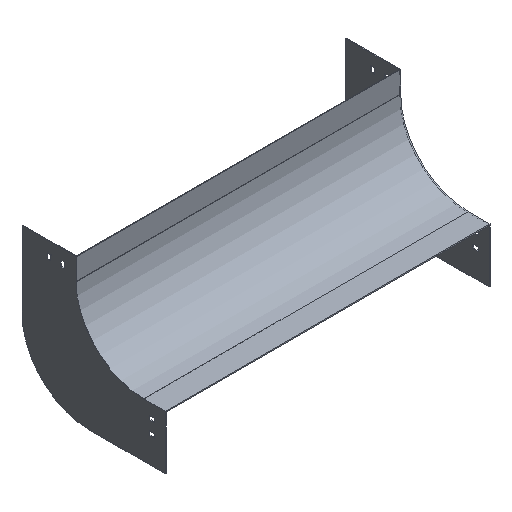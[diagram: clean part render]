
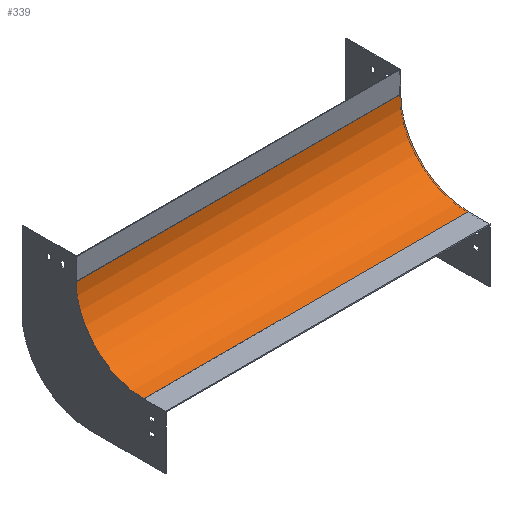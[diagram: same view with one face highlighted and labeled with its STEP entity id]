
A CAD part, isometric view. The second image highlights one B-rep face of the part: STEP entity #339.
In plain terms, the highlighted cylindrical face has radius 125 mm (diameter 250 mm), a partial arc.
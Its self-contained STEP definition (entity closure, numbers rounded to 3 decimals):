
#32 = CARTESIAN_POINT ( 'NONE',  ( 300., -125., -165. ) ) ;
#104 = DIRECTION ( 'NONE',  ( -1., 0., 0. ) ) ;
#118 = EDGE_LOOP ( 'NONE', ( #1108, #1229, #1266, #1466 ) ) ;
#149 = EDGE_CURVE ( 'NONE', #262, #860, #484, .T. ) ;
#218 = AXIS2_PLACEMENT_3D ( 'NONE', #752, #1398, #1506 ) ;
#222 = VERTEX_POINT ( 'NONE', #298 ) ;
#262 = VERTEX_POINT ( 'NONE', #583 ) ;
#298 = CARTESIAN_POINT ( 'NONE',  ( -300., -125., -165. ) ) ;
#339 = ADVANCED_FACE ( 'NONE', ( #1634 ), #1123, .F. ) ;
#428 = CIRCLE ( 'NONE', #218, 125. ) ;
#451 = LINE ( 'NONE', #32, #513 ) ;
#463 = DIRECTION ( 'NONE',  ( 0., 0., 1. ) ) ;
#484 = CIRCLE ( 'NONE', #756, 125. ) ;
#513 = VECTOR ( 'NONE', #1581, 1000. ) ;
#544 = CARTESIAN_POINT ( 'NONE',  ( 300., -125., -40. ) ) ;
#583 = CARTESIAN_POINT ( 'NONE',  ( 300., 0., -40. ) ) ;
#644 = CARTESIAN_POINT ( 'NONE',  ( 300., 0., -40. ) ) ;
#688 = DIRECTION ( 'NONE',  ( 0., 0., 1. ) ) ;
#752 = CARTESIAN_POINT ( 'NONE',  ( -300., -125., -40. ) ) ;
#756 = AXIS2_PLACEMENT_3D ( 'NONE', #544, #1335, #688 ) ;
#860 = VERTEX_POINT ( 'NONE', #1562 ) ;
#880 = CARTESIAN_POINT ( 'NONE',  ( -300., 0., -40. ) ) ;
#957 = EDGE_CURVE ( 'NONE', #262, #1149, #1425, .T. ) ;
#1041 = EDGE_CURVE ( 'NONE', #860, #222, #451, .T. ) ;
#1108 = ORIENTED_EDGE ( 'NONE', *, *, #1154, .T. ) ;
#1123 = CYLINDRICAL_SURFACE ( 'NONE', #1345, 125. ) ;
#1149 = VERTEX_POINT ( 'NONE', #880 ) ;
#1154 = EDGE_CURVE ( 'NONE', #1149, #222, #428, .T. ) ;
#1159 = DIRECTION ( 'NONE',  ( -1., 0., 0. ) ) ;
#1229 = ORIENTED_EDGE ( 'NONE', *, *, #1041, .F. ) ;
#1266 = ORIENTED_EDGE ( 'NONE', *, *, #149, .F. ) ;
#1335 = DIRECTION ( 'NONE',  ( -1., 0., 0. ) ) ;
#1345 = AXIS2_PLACEMENT_3D ( 'NONE', #1484, #104, #463 ) ;
#1398 = DIRECTION ( 'NONE',  ( -1., 0., 0. ) ) ;
#1425 = LINE ( 'NONE', #644, #1430 ) ;
#1430 = VECTOR ( 'NONE', #1159, 1000. ) ;
#1466 = ORIENTED_EDGE ( 'NONE', *, *, #957, .T. ) ;
#1484 = CARTESIAN_POINT ( 'NONE',  ( 300., -125., -40. ) ) ;
#1506 = DIRECTION ( 'NONE',  ( 0., 0., 1. ) ) ;
#1562 = CARTESIAN_POINT ( 'NONE',  ( 300., -125., -165. ) ) ;
#1581 = DIRECTION ( 'NONE',  ( -1., 0., 0. ) ) ;
#1634 = FACE_OUTER_BOUND ( 'NONE', #118, .T. ) ;
